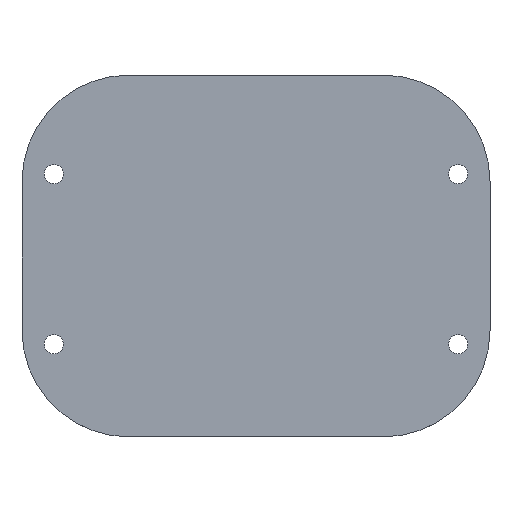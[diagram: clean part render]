
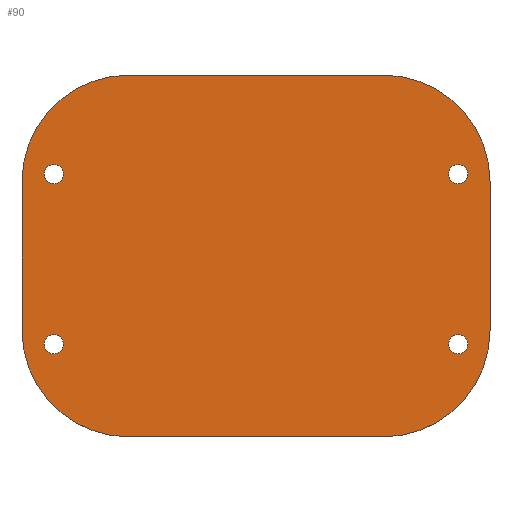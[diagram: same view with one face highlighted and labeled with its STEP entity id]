
A CAD part, top view. The second image highlights one B-rep face of the part: STEP entity #90.
In plain terms, the highlighted planar face has unit normal (0, 0, 1).
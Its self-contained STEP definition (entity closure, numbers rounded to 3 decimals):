
#24 = VERTEX_POINT('',#25);
#25 = CARTESIAN_POINT('',(13.,44.3,11.9));
#41 = VERTEX_POINT('',#42);
#42 = CARTESIAN_POINT('',(3.,54.3,11.9));
#48 = EDGE_CURVE('',#41,#24,#49,.T.);
#49 = CIRCLE('',#50,10.);
#50 = AXIS2_PLACEMENT_3D('',#51,#52,#53);
#51 = CARTESIAN_POINT('',(13.,54.3,11.9));
#52 = DIRECTION('',(0.,0.,1.));
#53 = DIRECTION('',(1.,0.,0.));
#72 = EDGE_CURVE('',#24,#73,#75,.T.);
#73 = VERTEX_POINT('',#74);
#74 = CARTESIAN_POINT('',(37.,44.3,11.9));
#75 = LINE('',#76,#77);
#76 = CARTESIAN_POINT('',(13.,44.3,11.9));
#77 = VECTOR('',#78,1.);
#78 = DIRECTION('',(1.,0.,0.));
#90 = ADVANCED_FACE('',(#91,#144,#155,#166,#177),#188,.T.);
#91 = FACE_BOUND('',#92,.T.);
#92 = EDGE_LOOP('',(#93,#94,#95,#104,#112,#121,#129,#138));
#93 = ORIENTED_EDGE('',*,*,#48,.T.);
#94 = ORIENTED_EDGE('',*,*,#72,.T.);
#95 = ORIENTED_EDGE('',*,*,#96,.T.);
#96 = EDGE_CURVE('',#73,#97,#99,.T.);
#97 = VERTEX_POINT('',#98);
#98 = CARTESIAN_POINT('',(47.,54.3,11.9));
#99 = CIRCLE('',#100,10.);
#100 = AXIS2_PLACEMENT_3D('',#101,#102,#103);
#101 = CARTESIAN_POINT('',(37.,54.3,11.9));
#102 = DIRECTION('',(0.,0.,1.));
#103 = DIRECTION('',(1.,0.,0.));
#104 = ORIENTED_EDGE('',*,*,#105,.T.);
#105 = EDGE_CURVE('',#97,#106,#108,.T.);
#106 = VERTEX_POINT('',#107);
#107 = CARTESIAN_POINT('',(47.,68.3,11.9));
#108 = LINE('',#109,#110);
#109 = CARTESIAN_POINT('',(47.,54.3,11.9));
#110 = VECTOR('',#111,1.);
#111 = DIRECTION('',(0.,1.,0.));
#112 = ORIENTED_EDGE('',*,*,#113,.T.);
#113 = EDGE_CURVE('',#106,#114,#116,.T.);
#114 = VERTEX_POINT('',#115);
#115 = CARTESIAN_POINT('',(37.,78.3,11.9));
#116 = CIRCLE('',#117,10.);
#117 = AXIS2_PLACEMENT_3D('',#118,#119,#120);
#118 = CARTESIAN_POINT('',(37.,68.3,11.9));
#119 = DIRECTION('',(0.,0.,1.));
#120 = DIRECTION('',(1.,0.,0.));
#121 = ORIENTED_EDGE('',*,*,#122,.F.);
#122 = EDGE_CURVE('',#123,#114,#125,.T.);
#123 = VERTEX_POINT('',#124);
#124 = CARTESIAN_POINT('',(13.,78.3,11.9));
#125 = LINE('',#126,#127);
#126 = CARTESIAN_POINT('',(13.,78.3,11.9));
#127 = VECTOR('',#128,1.);
#128 = DIRECTION('',(1.,0.,0.));
#129 = ORIENTED_EDGE('',*,*,#130,.T.);
#130 = EDGE_CURVE('',#123,#131,#133,.T.);
#131 = VERTEX_POINT('',#132);
#132 = CARTESIAN_POINT('',(3.,68.3,11.9));
#133 = CIRCLE('',#134,10.);
#134 = AXIS2_PLACEMENT_3D('',#135,#136,#137);
#135 = CARTESIAN_POINT('',(13.,68.3,11.9));
#136 = DIRECTION('',(0.,0.,1.));
#137 = DIRECTION('',(1.,0.,0.));
#138 = ORIENTED_EDGE('',*,*,#139,.F.);
#139 = EDGE_CURVE('',#41,#131,#140,.T.);
#140 = LINE('',#141,#142);
#141 = CARTESIAN_POINT('',(3.,54.3,11.9));
#142 = VECTOR('',#143,1.);
#143 = DIRECTION('',(0.,1.,0.));
#144 = FACE_BOUND('',#145,.T.);
#145 = EDGE_LOOP('',(#146));
#146 = ORIENTED_EDGE('',*,*,#147,.T.);
#147 = EDGE_CURVE('',#148,#148,#150,.T.);
#148 = VERTEX_POINT('',#149);
#149 = CARTESIAN_POINT('',(6.9,53.,11.9));
#150 = CIRCLE('',#151,0.9);
#151 = AXIS2_PLACEMENT_3D('',#152,#153,#154);
#152 = CARTESIAN_POINT('',(6.,53.,11.9));
#153 = DIRECTION('',(0.,0.,-1.));
#154 = DIRECTION('',(1.,0.,0.));
#155 = FACE_BOUND('',#156,.T.);
#156 = EDGE_LOOP('',(#157));
#157 = ORIENTED_EDGE('',*,*,#158,.T.);
#158 = EDGE_CURVE('',#159,#159,#161,.T.);
#159 = VERTEX_POINT('',#160);
#160 = CARTESIAN_POINT('',(44.9,53.,11.9));
#161 = CIRCLE('',#162,0.9);
#162 = AXIS2_PLACEMENT_3D('',#163,#164,#165);
#163 = CARTESIAN_POINT('',(44.,53.,11.9));
#164 = DIRECTION('',(0.,0.,-1.));
#165 = DIRECTION('',(1.,0.,0.));
#166 = FACE_BOUND('',#167,.T.);
#167 = EDGE_LOOP('',(#168));
#168 = ORIENTED_EDGE('',*,*,#169,.T.);
#169 = EDGE_CURVE('',#170,#170,#172,.T.);
#170 = VERTEX_POINT('',#171);
#171 = CARTESIAN_POINT('',(6.9,69.,11.9));
#172 = CIRCLE('',#173,0.9);
#173 = AXIS2_PLACEMENT_3D('',#174,#175,#176);
#174 = CARTESIAN_POINT('',(6.,69.,11.9));
#175 = DIRECTION('',(0.,0.,-1.));
#176 = DIRECTION('',(1.,0.,0.));
#177 = FACE_BOUND('',#178,.T.);
#178 = EDGE_LOOP('',(#179));
#179 = ORIENTED_EDGE('',*,*,#180,.T.);
#180 = EDGE_CURVE('',#181,#181,#183,.T.);
#181 = VERTEX_POINT('',#182);
#182 = CARTESIAN_POINT('',(44.9,69.,11.9));
#183 = CIRCLE('',#184,0.9);
#184 = AXIS2_PLACEMENT_3D('',#185,#186,#187);
#185 = CARTESIAN_POINT('',(44.,69.,11.9));
#186 = DIRECTION('',(0.,0.,-1.));
#187 = DIRECTION('',(1.,0.,0.));
#188 = PLANE('',#189);
#189 = AXIS2_PLACEMENT_3D('',#190,#191,#192);
#190 = CARTESIAN_POINT('',(25.,61.3,11.9));
#191 = DIRECTION('',(0.,0.,1.));
#192 = DIRECTION('',(1.,0.,0.));
